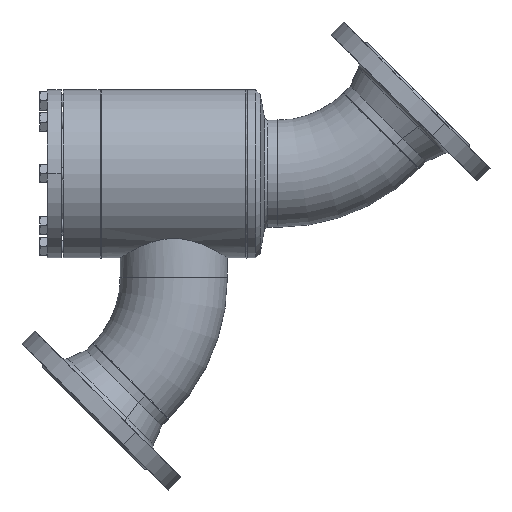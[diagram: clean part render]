
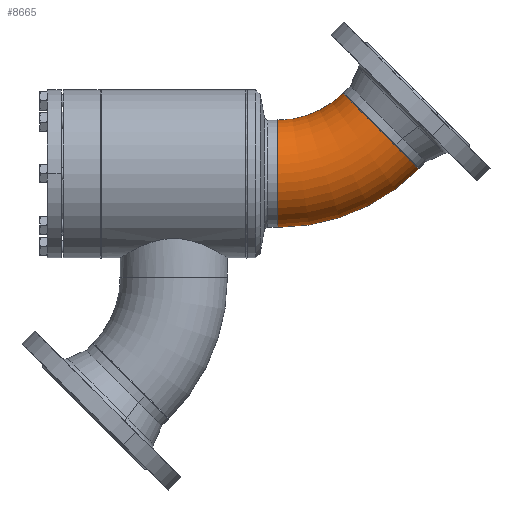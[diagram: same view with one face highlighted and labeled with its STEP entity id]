
A CAD part, left-side view. The second image highlights one B-rep face of the part: STEP entity #8665.
In plain terms, the highlighted toroidal (fillet/blend) face has major radius 190 mm and minor radius 69.85 mm.
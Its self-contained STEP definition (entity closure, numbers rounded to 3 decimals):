
#144 = FACE_OUTER_BOUND ( 'NONE', #8504, .T. ) ;
#145 = TOROIDAL_SURFACE ( 'NONE', #146, 190., 69.85 ) ;
#146 = AXIS2_PLACEMENT_3D ( 'NONE', #149, #150, #151 ) ;
#149 = CARTESIAN_POINT ( 'NONE',  ( 0., -190., 0. ) ) ;
#150 = DIRECTION ( 'NONE',  ( 0., 0., 1. ) ) ;
#151 = DIRECTION ( 'NONE',  ( 1., 0., 0. ) ) ;
#2163 = CIRCLE ( 'NONE', #2164, 69.85 ) ;
#2164 = AXIS2_PLACEMENT_3D ( 'NONE', #2165, #2166, #2167 ) ;
#2165 = CARTESIAN_POINT ( 'NONE',  ( 134.35, -55.65, 0. ) ) ;
#2166 = DIRECTION ( 'NONE',  ( 0.707, -0.707, 0. ) ) ;
#2167 = DIRECTION ( 'NONE',  ( 0., 0., -1. ) ) ;
#2209 = CARTESIAN_POINT ( 'NONE',  ( 183.742, -6.258, 0. ) ) ;
#2248 = CIRCLE ( 'NONE', #2249, 120.15 ) ;
#2249 = AXIS2_PLACEMENT_3D ( 'NONE', #2250, #2251, #2252 ) ;
#2250 = CARTESIAN_POINT ( 'NONE',  ( 0., -190., 0. ) ) ;
#2251 = DIRECTION ( 'NONE',  ( 0., 0., 1. ) ) ;
#2252 = DIRECTION ( 'NONE',  ( 1., 0., 0. ) ) ;
#2362 = VERTEX_POINT ( 'NONE', #9313 ) ;
#2523 = ORIENTED_EDGE ( 'NONE', *, *, #9914, .F. ) ;
#4377 = EDGE_CURVE ( 'NONE', #2362, #6362, #2248, .T. ) ;
#5052 = CIRCLE ( 'NONE', #5053, 69.85 ) ;
#5053 = AXIS2_PLACEMENT_3D ( 'NONE', #5054, #5055, #5056 ) ;
#5054 = CARTESIAN_POINT ( 'NONE',  ( 0., 0., 0. ) ) ;
#5055 = DIRECTION ( 'NONE',  ( 1., 0., 0. ) ) ;
#5056 = DIRECTION ( 'NONE',  ( 0., 0., -1. ) ) ;
#6026 = EDGE_CURVE ( 'NONE', #6362, #6335, #5052, .T. ) ;
#6063 = ORIENTED_EDGE ( 'NONE', *, *, #6026, .T. ) ;
#6111 = ORIENTED_EDGE ( 'NONE', *, *, #4377, .T. ) ;
#6203 = VERTEX_POINT ( 'NONE', #2209 ) ;
#6335 = VERTEX_POINT ( 'NONE', #7910 ) ;
#6355 = EDGE_CURVE ( 'NONE', #6203, #6335, #8044, .T. ) ;
#6362 = VERTEX_POINT ( 'NONE', #8197 ) ;
#7910 = CARTESIAN_POINT ( 'NONE',  ( 0., 69.85, 0. ) ) ;
#8044 = CIRCLE ( 'NONE', #8045, 259.85 ) ;
#8045 = AXIS2_PLACEMENT_3D ( 'NONE', #8046, #8047, #8048 ) ;
#8046 = CARTESIAN_POINT ( 'NONE',  ( 0., -190., 0. ) ) ;
#8047 = DIRECTION ( 'NONE',  ( 0., 0., 1. ) ) ;
#8048 = DIRECTION ( 'NONE',  ( 1., 0., 0. ) ) ;
#8197 = CARTESIAN_POINT ( 'NONE',  ( 0., -69.85, 0. ) ) ;
#8201 = ORIENTED_EDGE ( 'NONE', *, *, #6355, .F. ) ;
#8504 = EDGE_LOOP ( 'NONE', ( #8201, #2523, #6111, #6063 ) ) ;
#8665 = ADVANCED_FACE ( 'NONE', ( #144 ), #145, .T. ) ;
#9313 = CARTESIAN_POINT ( 'NONE',  ( 84.959, -105.041, 0. ) ) ;
#9914 = EDGE_CURVE ( 'NONE', #2362, #6203, #2163, .T. ) ;
